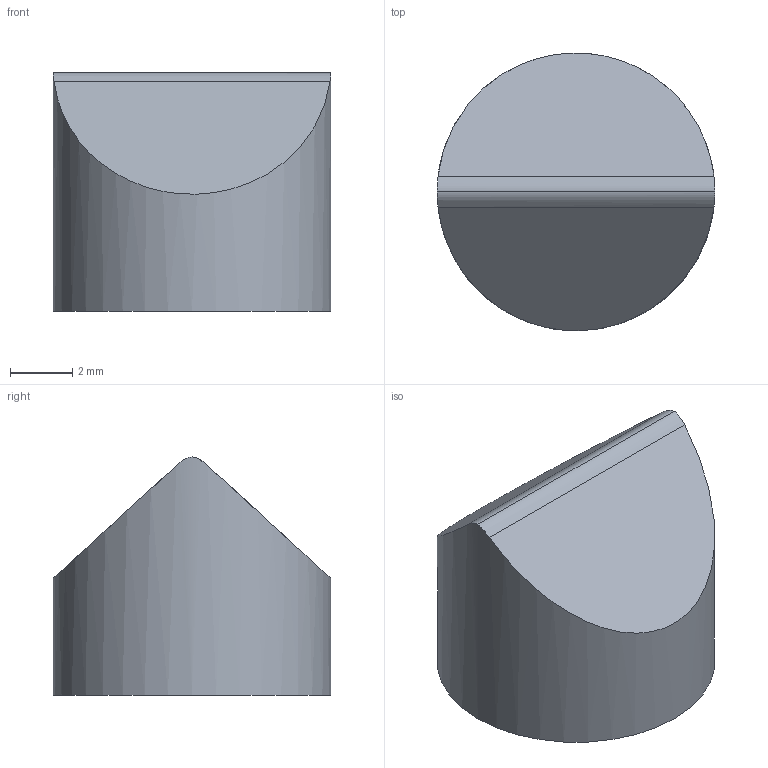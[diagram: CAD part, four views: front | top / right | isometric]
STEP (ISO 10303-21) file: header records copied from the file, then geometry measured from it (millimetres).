
FILE_DESCRIPTION(/* description */ ('Alibre Inc.'),/* implementation_level */ '2;1');
FILE_NAME(/* name */ 'export0',/* time_stamp */ '2011-07-18T15:08:28-04:00',/* author */ (''),/* organization */ (''),/* preprocessor_version */ 'ST-DEVELOPER v12',/* originating_system */ 'Alibre',/* authorisation */ '');
FILE_SCHEMA (('AUTOMOTIVE_DESIGN'));
Length unit declared in the file: centimetre
Bounding box: 8.89 x 8.89 x 7.62 mm (x, y, z)
Volume: 376.7 mm3; surface area: 290 mm2
Topology: 1 solids, 1 shells, 6 faces, 11 edges, 7 vertices
Faces by surface type: plane 3, bspline 2, cylinder 1
Full cylindrical faces by diameter (mm): 8.89 x1
Entity records: 195 total; most frequent: CARTESIAN_POINT 75, ORIENTED_EDGE 20, DIRECTION 14, EDGE_CURVE 10, VERTEX_POINT 7, EDGE_LOOP 7, FACE_BOUND 7, AXIS2_PLACEMENT_3D 7
